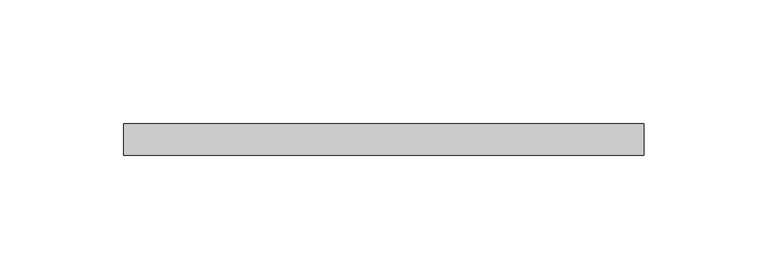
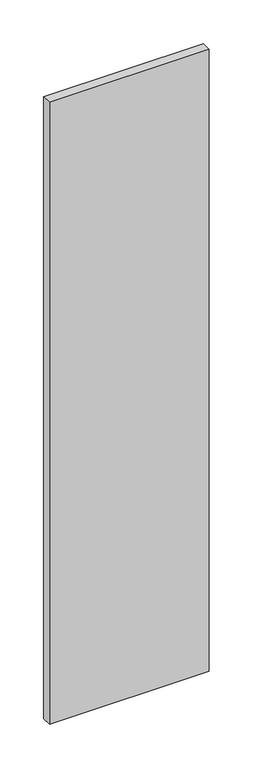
"""IFC4 building model written with IfcOpenShell, lengths in millimetres: proxy geometry, LIVERS_ICN - Glass Panel : LIVERS_ICN - Glass Panel."""

from ifc_helpers import new_model, si_unit, frame, origin, place, context, project, spatial, polyline, outline, extrude, source, transform, mapped, element, save


def building_element_proxy_f6dfaf89(model_context):
    return source(origin(), model_context, "Body", "SweptSolid", [
        extrude(outline(polyline([(697.7979191, 34.1309994), (487.8303624, 34.1309994), (487.8303624, 46.8311957), (697.7979191, 46.8311957), (697.7979191, 34.1309994)])), frame((0.0, 0.0, 114.3), z_axis=(0.0, 0.0, 1.0), x_axis=(1.0, 0.0, 0.0)), (0.0, 0.0, 1.0), 863.6),
    ])


if __name__ == "__main__":
    model = new_model("IFC4")
    model_context = context("Model", 3, world=origin())
    ifc_project = project(units=[si_unit("LENGTHUNIT", "METRE", prefix="MILLI")], contexts=[model_context])
    site = spatial("IfcSite", under=ifc_project)
    building = spatial("IfcBuilding", under=site)
    placement = place(None, origin())
    building_element_proxy_shape = building_element_proxy_f6dfaf89(model_context)
    element("IfcBuildingElementProxy", 1, Name="LIVERS_ICN - Glass Panel : LIVERS_ICN - Glass Panel", ObjectType="LIVERS_ICN - Glass Panel : LIVERS_ICN - Glass Panel", at=placement, inside=building, context=model_context, shape_type="MappedRepresentation", body=[
        mapped(building_element_proxy_shape, transform((0.0, 0.0, 0.0), x_axis=(1.0, 0.0, 0.0), y_axis=(0.0, 1.0, 0.0), z_axis=(0.0, 0.0, 1.0))),
    ])
    save(model, "model.ifc")
